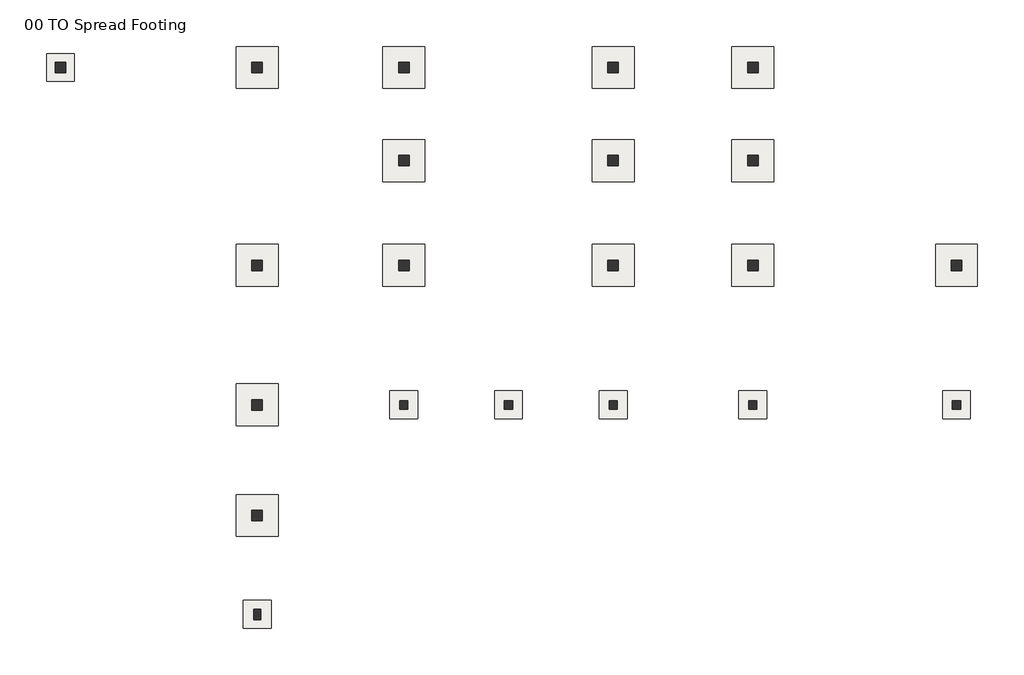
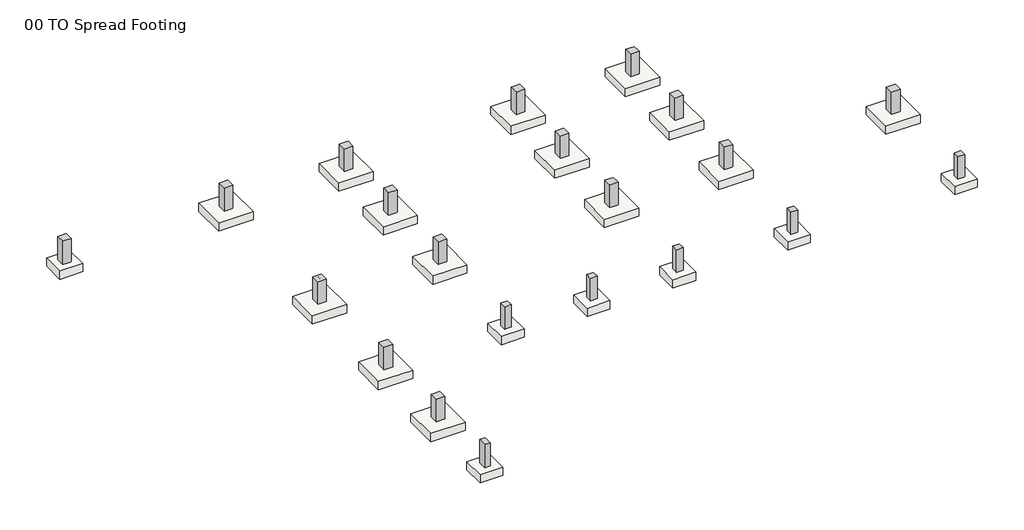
# One storey, part 1 of 2: 21 columns, 21 slabs.
"""IFC4 building model written with IfcOpenShell, lengths in millimetres."""

from ifc_helpers import new_model, si_unit, frame, origin, place, context, project, spatial, polyline, outline, extrude, transform, mapped, element, save
from components import footing_rectangular_spread_footing_f1_6d6a3403, footing_rectangular_spread_footing_f2_ae0d545e

model = new_model("IFC4")

# Units and contexts
model_context = context("Model", 3, world=origin())
ifc_project = project(units=[si_unit("LENGTHUNIT", "METRE", prefix="MILLI")], contexts=[model_context])

# Site, building, storey
site = spatial("IfcSite", under=ifc_project)
building = spatial("IfcBuilding", under=site)
storey = spatial("IfcBuildingStorey", under=building, Name="00 TO Spread Footing", Elevation=-1524.0)

# Columns
placement = place(None, origin())
element("IfcColumn", 1, ObjectType="Concrete-Rectangular-Column : CIP Column_C2_18\" x 18\"", at=placement, inside=storey, context=model_context, shape_type="SweptSolid", body=[
    extrude(outline(polyline([(-19040.1273699, 9224.7746638), (-19040.1273699, 8767.5746638), (-19497.3273699, 8767.5746638), (-19497.3273699, 9224.7746638), (-19040.1273699, 9224.7746638)])), frame((0.0, 0.0, -1524.0), z_axis=(0.0, 0.0, 1.0), x_axis=(1.0, 0.0, 0.0)), (0.0, 0.0, 1.0), 1320.8),
])
element("IfcColumn", 2, ObjectType="Concrete-Rectangular-Column : CIP Column_C2_18\" x 18\"", at=placement, inside=storey, context=model_context, shape_type="SweptSolid", body=[
    extrude(outline(polyline([(-10912.1273699, 8767.5746638), (-10912.1273699, 9224.7746638), (-10454.9273699, 9224.7746638), (-10454.9273699, 8767.5746638), (-10912.1273699, 8767.5746638)])), frame((0.0, 0.0, -1524.0), z_axis=(0.0, 0.0, 1.0), x_axis=(1.0, 0.0, 0.0)), (0.0, 0.0, 1.0), 1320.8),
])
element("IfcColumn", 3, ObjectType="Concrete-Rectangular-Column : CIP Column_C2_18\" x 18\"", at=placement, inside=storey, context=model_context, shape_type="SweptSolid", body=[
    extrude(outline(polyline([(-4511.3273699, 8767.5746638), (-4511.3273699, 9224.7746638), (-4054.1273699, 9224.7746638), (-4054.1273699, 8767.5746638), (-4511.3273699, 8767.5746638)])), frame((0.0, 0.0, -1524.0), z_axis=(0.0, 0.0, 1.0), x_axis=(1.0, 0.0, 0.0)), (0.0, 0.0, 1.0), 1270.0),
])
element("IfcColumn", 4, ObjectType="Concrete-Rectangular-Column : CIP Column_C2_18\" x 18\"", at=placement, inside=storey, context=model_context, shape_type="SweptSolid", body=[
    extrude(outline(polyline([(4632.6726301, 8767.5746638), (4632.6726301, 9224.7746638), (5089.8726301, 9224.7746638), (5089.8726301, 8767.5746638), (4632.6726301, 8767.5746638)])), frame((0.0, 0.0, -1524.0), z_axis=(0.0, 0.0, 1.0), x_axis=(1.0, 0.0, 0.0)), (0.0, 0.0, 1.0), 1270.0),
])
element("IfcColumn", 5, ObjectType="Concrete-Rectangular-Column : CIP Column_C2_18\" x 18\"", at=placement, inside=storey, context=model_context, shape_type="SweptSolid", body=[
    extrude(outline(polyline([(10728.6726301, 8767.5746638), (10728.6726301, 9224.7746638), (11185.8726301, 9224.7746638), (11185.8726301, 8767.5746638), (10728.6726301, 8767.5746638)])), frame((0.0, 0.0, -1524.0), z_axis=(0.0, 0.0, 1.0), x_axis=(1.0, 0.0, 0.0)), (0.0, 0.0, 1.0), 1270.0),
])
element("IfcColumn", 6, ObjectType="Concrete-Rectangular-Column : CIP Column_C2_18\" x 18\"", at=placement, inside=storey, context=model_context, shape_type="SweptSolid", body=[
    extrude(outline(polyline([(-10454.9273699, -10333.2253362), (-10454.9273699, -10790.4253362), (-10912.1273699, -10790.4253362), (-10912.1273699, -10333.2253362), (-10454.9273699, -10333.2253362)])), frame((0.0, 0.0, -1524.0), z_axis=(0.0, 0.0, 1.0), x_axis=(1.0, 0.0, 0.0)), (0.0, 0.0, 1.0), 1270.0),
])
element("IfcColumn", 7, ObjectType="Concrete-Rectangular-Column : CIP Column_C2_18\" x 18\"", at=placement, inside=storey, context=model_context, shape_type="SweptSolid", body=[
    extrude(outline(polyline([(-10454.9273699, -5507.2253362), (-10454.9273699, -5964.4253362), (-10912.1273699, -5964.4253362), (-10912.1273699, -5507.2253362), (-10454.9273699, -5507.2253362)])), frame((0.0, 0.0, -1524.0), z_axis=(0.0, 0.0, 1.0), x_axis=(1.0, 0.0, 0.0)), (0.0, 0.0, 1.0), 1270.0),
])
element("IfcColumn", 8, ObjectType="Concrete-Rectangular-Column : CIP Column_C2_18\" x 18\"", at=placement, inside=storey, context=model_context, shape_type="SweptSolid", body=[
    extrude(outline(polyline([(-10454.9273699, 588.7746638), (-10454.9273699, 131.5746638), (-10912.1273699, 131.5746638), (-10912.1273699, 588.7746638), (-10454.9273699, 588.7746638)])), frame((0.0, 0.0, -1524.0), z_axis=(0.0, 0.0, 1.0), x_axis=(1.0, 0.0, 0.0)), (0.0, 0.0, 1.0), 1270.0),
])
element("IfcColumn", 9, ObjectType="Concrete-Rectangular-Column : CIP Column_C2_18\" x 18\"", at=placement, inside=storey, context=model_context, shape_type="SweptSolid", body=[
    extrude(outline(polyline([(-4054.1273699, 588.7746638), (-4054.1273699, 131.5746638), (-4511.3273699, 131.5746638), (-4511.3273699, 588.7746638), (-4054.1273699, 588.7746638)])), frame((0.0, 0.0, -1524.0), z_axis=(0.0, 0.0, 1.0), x_axis=(1.0, 0.0, 0.0)), (0.0, 0.0, 1.0), 1270.0),
])
element("IfcColumn", 10, ObjectType="Concrete-Rectangular-Column : CIP Column_C2_18\" x 18\"", at=placement, inside=storey, context=model_context, shape_type="SweptSolid", body=[
    extrude(outline(polyline([(5089.8726301, 588.7746638), (5089.8726301, 131.5746638), (4632.6726301, 131.5746638), (4632.6726301, 588.7746638), (5089.8726301, 588.7746638)])), frame((0.0, 0.0, -1524.0), z_axis=(0.0, 0.0, 1.0), x_axis=(1.0, 0.0, 0.0)), (0.0, 0.0, 1.0), 1270.0),
])
element("IfcColumn", 11, ObjectType="Concrete-Rectangular-Column : CIP Column_C2_18\" x 18\"", at=placement, inside=storey, context=model_context, shape_type="SweptSolid", body=[
    extrude(outline(polyline([(11185.8726301, 588.7746638), (11185.8726301, 131.5746638), (10728.6726301, 131.5746638), (10728.6726301, 588.7746638), (11185.8726301, 588.7746638)])), frame((0.0, 0.0, -1524.0), z_axis=(0.0, 0.0, 1.0), x_axis=(1.0, 0.0, 0.0)), (0.0, 0.0, 1.0), 1270.0),
])
element("IfcColumn", 12, ObjectType="Concrete-Rectangular-Column : CIP Column_C2_18\" x 18\"", at=placement, inside=storey, context=model_context, shape_type="SweptSolid", body=[
    extrude(outline(polyline([(20075.8726301, 588.7746638), (20075.8726301, 131.5746638), (19618.6726301, 131.5746638), (19618.6726301, 588.7746638), (20075.8726301, 588.7746638)])), frame((0.0, 0.0, -1524.0), z_axis=(0.0, 0.0, 1.0), x_axis=(1.0, 0.0, 0.0)), (0.0, 0.0, 1.0), 1270.0),
])
element("IfcColumn", 13, ObjectType="Concrete-Rectangular-Column : CIP Column_C2_18\" x 18\"", at=placement, inside=storey, context=model_context, shape_type="SweptSolid", body=[
    extrude(outline(polyline([(-4054.1273699, 5160.7746638), (-4054.1273699, 4703.5746638), (-4511.3273699, 4703.5746638), (-4511.3273699, 5160.7746638), (-4054.1273699, 5160.7746638)])), frame((0.0, 0.0, -1524.0), z_axis=(0.0, 0.0, 1.0), x_axis=(1.0, 0.0, 0.0)), (0.0, 0.0, 1.0), 1270.0),
])
element("IfcColumn", 14, ObjectType="Concrete-Rectangular-Column : CIP Column_C2_18\" x 18\"", at=placement, inside=storey, context=model_context, shape_type="SweptSolid", body=[
    extrude(outline(polyline([(5089.8726301, 5160.7746638), (5089.8726301, 4703.5746638), (4632.6726301, 4703.5746638), (4632.6726301, 5160.7746638), (5089.8726301, 5160.7746638)])), frame((0.0, 0.0, -1524.0), z_axis=(0.0, 0.0, 1.0), x_axis=(1.0, 0.0, 0.0)), (0.0, 0.0, 1.0), 1270.0),
])
element("IfcColumn", 15, ObjectType="Concrete-Rectangular-Column : CIP Column_C2_18\" x 18\"", at=placement, inside=storey, context=model_context, shape_type="SweptSolid", body=[
    extrude(outline(polyline([(11185.8726301, 5160.7746638), (11185.8726301, 4703.5746638), (10728.6726301, 4703.5746638), (10728.6726301, 5160.7746638), (11185.8726301, 5160.7746638)])), frame((0.0, 0.0, -1524.0), z_axis=(0.0, 0.0, 1.0), x_axis=(1.0, 0.0, 0.0)), (0.0, 0.0, 1.0), 1270.0),
])
element("IfcColumn", 16, ObjectType="Concrete-Rectangular-Column : CIP Column_C3_14\" x 14\"", at=placement, inside=storey, context=model_context, shape_type="SweptSolid", body=[
    extrude(outline(polyline([(-4104.9273699, -5558.0253362), (-4104.9273699, -5913.6253362), (-4460.5273699, -5913.6253362), (-4460.5273699, -5558.0253362), (-4104.9273699, -5558.0253362)])), frame((0.0, 0.0, -1524.0), z_axis=(0.0, 0.0, 1.0), x_axis=(1.0, 0.0, 0.0)), (0.0, 0.0, 1.0), 1270.0),
])
element("IfcColumn", 17, ObjectType="Concrete-Rectangular-Column : CIP Column_C3_14\" x 14\"", at=placement, inside=storey, context=model_context, shape_type="SweptSolid", body=[
    extrude(outline(polyline([(467.0726301, -5558.0253362), (467.0726301, -5913.6253362), (111.4726301, -5913.6253362), (111.4726301, -5558.0253362), (467.0726301, -5558.0253362)])), frame((0.0, 0.0, -1524.0), z_axis=(0.0, 0.0, 1.0), x_axis=(1.0, 0.0, 0.0)), (0.0, 0.0, 1.0), 1270.0),
])
element("IfcColumn", 18, ObjectType="Concrete-Rectangular-Column : CIP Column_C3_14\" x 14\"", at=placement, inside=storey, context=model_context, shape_type="SweptSolid", body=[
    extrude(outline(polyline([(5039.0726301, -5558.0253362), (5039.0726301, -5913.6253362), (4683.4726301, -5913.6253362), (4683.4726301, -5558.0253362), (5039.0726301, -5558.0253362)])), frame((0.0, 0.0, -1524.0), z_axis=(0.0, 0.0, 1.0), x_axis=(1.0, 0.0, 0.0)), (0.0, 0.0, 1.0), 1270.0),
])
element("IfcColumn", 19, ObjectType="Concrete-Rectangular-Column : CIP Column_C3_14\" x 14\"", at=placement, inside=storey, context=model_context, shape_type="SweptSolid", body=[
    extrude(outline(polyline([(11135.0726301, -5558.0253362), (11135.0726301, -5913.6253362), (10779.4726301, -5913.6253362), (10779.4726301, -5558.0253362), (11135.0726301, -5558.0253362)])), frame((0.0, 0.0, -1524.0), z_axis=(0.0, 0.0, 1.0), x_axis=(1.0, 0.0, 0.0)), (0.0, 0.0, 1.0), 1270.0),
])
element("IfcColumn", 20, ObjectType="Concrete-Rectangular-Column : CIP Column_C3_14\" x 14\"", at=placement, inside=storey, context=model_context, shape_type="SweptSolid", body=[
    extrude(outline(polyline([(20025.0726301, -5558.0253362), (20025.0726301, -5913.6253362), (19669.4726301, -5913.6253362), (19669.4726301, -5558.0253362), (20025.0726301, -5558.0253362)])), frame((0.0, 0.0, -1524.0), z_axis=(0.0, 0.0, 1.0), x_axis=(1.0, 0.0, 0.0)), (0.0, 0.0, 1.0), 1270.0),
])
element("IfcColumn", 21, ObjectType="Concrete-Rectangular-Column : CIP Column_C4_12\" x 18\"", at=placement, inside=storey, context=model_context, shape_type="SweptSolid", body=[
    extrude(outline(polyline([(-10531.1273699, -14651.2253362), (-10531.1273699, -15108.4253362), (-10835.9273699, -15108.4253362), (-10835.9273699, -14651.2253362), (-10531.1273699, -14651.2253362)])), frame((0.0, 0.0, -1524.0), z_axis=(0.0, 0.0, 1.0), x_axis=(1.0, 0.0, 0.0)), (0.0, 0.0, 1.0), 1320.8),
])

# Slabs
footing_rectangular_spread_footing_f1_shape = footing_rectangular_spread_footing_f1_6d6a3403(model_context)
element("IfcSlab", 22, ObjectType="Footing-Rectangular : Spread Footing_F1", at=placement, inside=storey, context=model_context, shape_type="MappedRepresentation", body=[
    mapped(footing_rectangular_spread_footing_f1_shape, transform((-10683.5273699, 8996.1746638, -1524.0), x_axis=(-1.0, 0.0, 0.0), y_axis=(0.0, -1.0, 0.0), z_axis=(0.0, 0.0, 1.0))),
])
element("IfcSlab", 23, ObjectType="Footing-Rectangular : Spread Footing_F1", at=placement, inside=storey, context=model_context, shape_type="MappedRepresentation", body=[
    mapped(footing_rectangular_spread_footing_f1_shape, transform((-4282.7273699, 8996.1746638, -1524.0), x_axis=(-1.0, 0.0, 0.0), y_axis=(0.0, -1.0, 0.0), z_axis=(0.0, 0.0, 1.0))),
])
element("IfcSlab", 24, ObjectType="Footing-Rectangular : Spread Footing_F1", at=placement, inside=storey, context=model_context, shape_type="MappedRepresentation", body=[
    mapped(footing_rectangular_spread_footing_f1_shape, transform((4861.2726301, 8996.1746638, -1524.0), x_axis=(-1.0, 0.0, 0.0), y_axis=(0.0, -1.0, 0.0), z_axis=(0.0, 0.0, 1.0))),
])
element("IfcSlab", 25, ObjectType="Footing-Rectangular : Spread Footing_F1", at=placement, inside=storey, context=model_context, shape_type="MappedRepresentation", body=[
    mapped(footing_rectangular_spread_footing_f1_shape, transform((10957.2726301, 8996.1746638, -1524.0), x_axis=(-1.0, 0.0, 0.0), y_axis=(0.0, -1.0, 0.0), z_axis=(0.0, 0.0, 1.0))),
])
element("IfcSlab", 26, ObjectType="Footing-Rectangular : Spread Footing_F1", at=placement, inside=storey, context=model_context, shape_type="MappedRepresentation", body=[
    mapped(footing_rectangular_spread_footing_f1_shape, transform((-4282.7273699, 360.1746638, -1524.0), x_axis=(1.0, 0.0, 0.0), y_axis=(0.0, 1.0, 0.0), z_axis=(0.0, 0.0, 1.0))),
])
element("IfcSlab", 27, ObjectType="Footing-Rectangular : Spread Footing_F1", at=placement, inside=storey, context=model_context, shape_type="MappedRepresentation", body=[
    mapped(footing_rectangular_spread_footing_f1_shape, transform((4861.2726301, 360.1746638, -1524.0), x_axis=(1.0, 0.0, 0.0), y_axis=(0.0, 1.0, 0.0), z_axis=(0.0, 0.0, 1.0))),
])
element("IfcSlab", 28, ObjectType="Footing-Rectangular : Spread Footing_F1", at=placement, inside=storey, context=model_context, shape_type="MappedRepresentation", body=[
    mapped(footing_rectangular_spread_footing_f1_shape, transform((10957.2726301, 360.1746638, -1524.0), x_axis=(1.0, 0.0, 0.0), y_axis=(0.0, 1.0, 0.0), z_axis=(0.0, 0.0, 1.0))),
])
element("IfcSlab", 29, ObjectType="Footing-Rectangular : Spread Footing_F1", at=placement, inside=storey, context=model_context, shape_type="MappedRepresentation", body=[
    mapped(footing_rectangular_spread_footing_f1_shape, transform((-4282.7273699, 4932.1746638, -1524.0), x_axis=(1.0, 0.0, 0.0), y_axis=(0.0, 1.0, 0.0), z_axis=(0.0, 0.0, 1.0))),
])
element("IfcSlab", 30, ObjectType="Footing-Rectangular : Spread Footing_F1", at=placement, inside=storey, context=model_context, shape_type="MappedRepresentation", body=[
    mapped(footing_rectangular_spread_footing_f1_shape, transform((4861.2726301, 4932.1746638, -1524.0), x_axis=(1.0, 0.0, 0.0), y_axis=(0.0, 1.0, 0.0), z_axis=(0.0, 0.0, 1.0))),
])
element("IfcSlab", 31, ObjectType="Footing-Rectangular : Spread Footing_F1", at=placement, inside=storey, context=model_context, shape_type="MappedRepresentation", body=[
    mapped(footing_rectangular_spread_footing_f1_shape, transform((10957.2726301, 4932.1746638, -1524.0), x_axis=(1.0, 0.0, 0.0), y_axis=(0.0, 1.0, 0.0), z_axis=(0.0, 0.0, 1.0))),
])
element("IfcSlab", 32, ObjectType="Footing-Rectangular : Spread Footing_F1", at=placement, inside=storey, context=model_context, shape_type="MappedRepresentation", body=[
    mapped(footing_rectangular_spread_footing_f1_shape, transform((19847.2726301, 360.1746638, -1524.0), x_axis=(1.0, 0.0, 0.0), y_axis=(0.0, 1.0, 0.0), z_axis=(0.0, 0.0, 1.0))),
])
element("IfcSlab", 33, ObjectType="Footing-Rectangular : Spread Footing_F1", at=placement, inside=storey, context=model_context, shape_type="MappedRepresentation", body=[
    mapped(footing_rectangular_spread_footing_f1_shape, transform((-10683.5273699, -10561.8253362, -1524.0), x_axis=(1.0, 0.0, 0.0), y_axis=(0.0, 1.0, 0.0), z_axis=(0.0, 0.0, 1.0))),
])
element("IfcSlab", 34, ObjectType="Footing-Rectangular : Spread Footing_F1", at=placement, inside=storey, context=model_context, shape_type="MappedRepresentation", body=[
    mapped(footing_rectangular_spread_footing_f1_shape, transform((-10683.5273699, -5735.8253362, -1524.0), x_axis=(1.0, 0.0, 0.0), y_axis=(0.0, 1.0, 0.0), z_axis=(0.0, 0.0, 1.0))),
])
element("IfcSlab", 35, ObjectType="Footing-Rectangular : Spread Footing_F1", at=placement, inside=storey, context=model_context, shape_type="MappedRepresentation", body=[
    mapped(footing_rectangular_spread_footing_f1_shape, transform((-10683.5273699, 360.1746638, -1524.0), x_axis=(1.0, 0.0, 0.0), y_axis=(0.0, 1.0, 0.0), z_axis=(0.0, 0.0, 1.0))),
])
footing_rectangular_spread_footing_f2_shape = footing_rectangular_spread_footing_f2_ae0d545e(model_context)
element("IfcSlab", 36, ObjectType="Footing-Rectangular : Spread Footing_F2", at=placement, inside=storey, context=model_context, shape_type="MappedRepresentation", body=[
    mapped(footing_rectangular_spread_footing_f2_shape, transform((-19268.7273699, 8996.1746638, -1524.0), x_axis=(1.0, 0.0, 0.0), y_axis=(0.0, 1.0, 0.0), z_axis=(0.0, 0.0, 1.0))),
])
element("IfcSlab", 37, ObjectType="Footing-Rectangular : Spread Footing_F2", at=placement, inside=storey, context=model_context, shape_type="MappedRepresentation", body=[
    mapped(footing_rectangular_spread_footing_f2_shape, transform((-4282.7273699, -5735.8253362, -1524.0), x_axis=(1.0, 0.0, 0.0), y_axis=(0.0, 1.0, 0.0), z_axis=(0.0, 0.0, 1.0))),
])
element("IfcSlab", 38, ObjectType="Footing-Rectangular : Spread Footing_F2", at=placement, inside=storey, context=model_context, shape_type="MappedRepresentation", body=[
    mapped(footing_rectangular_spread_footing_f2_shape, transform((289.2726301, -5735.8253362, -1524.0), x_axis=(1.0, 0.0, 0.0), y_axis=(0.0, 1.0, 0.0), z_axis=(0.0, 0.0, 1.0))),
])
element("IfcSlab", 39, ObjectType="Footing-Rectangular : Spread Footing_F2", at=placement, inside=storey, context=model_context, shape_type="MappedRepresentation", body=[
    mapped(footing_rectangular_spread_footing_f2_shape, transform((4861.2726301, -5735.8253362, -1524.0), x_axis=(1.0, 0.0, 0.0), y_axis=(0.0, 1.0, 0.0), z_axis=(0.0, 0.0, 1.0))),
])
element("IfcSlab", 40, ObjectType="Footing-Rectangular : Spread Footing_F2", at=placement, inside=storey, context=model_context, shape_type="MappedRepresentation", body=[
    mapped(footing_rectangular_spread_footing_f2_shape, transform((10957.2726301, -5735.8253362, -1524.0), x_axis=(1.0, 0.0, 0.0), y_axis=(0.0, 1.0, 0.0), z_axis=(0.0, 0.0, 1.0))),
])
element("IfcSlab", 41, ObjectType="Footing-Rectangular : Spread Footing_F2", at=placement, inside=storey, context=model_context, shape_type="MappedRepresentation", body=[
    mapped(footing_rectangular_spread_footing_f2_shape, transform((19847.2726301, -5735.8253362, -1524.0), x_axis=(1.0, 0.0, 0.0), y_axis=(0.0, 1.0, 0.0), z_axis=(0.0, 0.0, 1.0))),
])
element("IfcSlab", 42, ObjectType="Footing-Rectangular : Spread Footing_F3", at=placement, inside=storey, context=model_context, shape_type="MappedRepresentation", body=[
    mapped(footing_rectangular_spread_footing_f2_shape, transform((-10683.5273699, -14879.8253362, -1524.0), x_axis=(1.0, 0.0, 0.0), y_axis=(0.0, 1.0, 0.0), z_axis=(0.0, 0.0, 1.0))),
])

save(model, "model.ifc")
